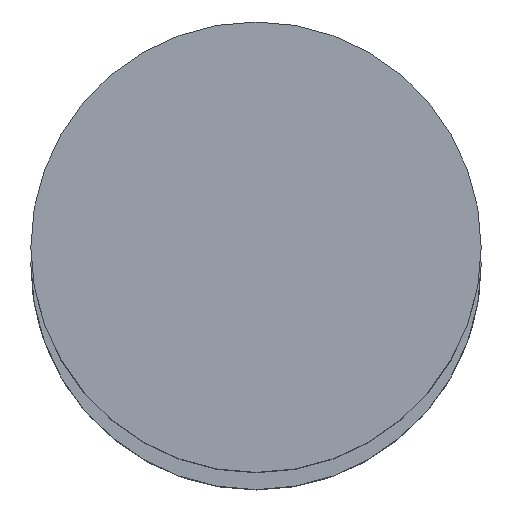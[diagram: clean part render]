
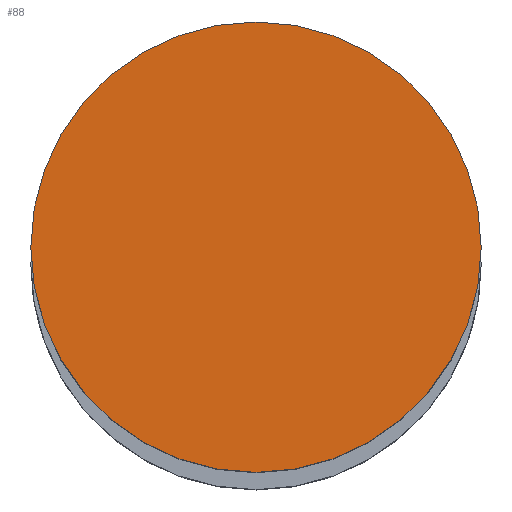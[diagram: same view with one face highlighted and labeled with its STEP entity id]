
A CAD part, top view. The second image highlights one B-rep face of the part: STEP entity #88.
In plain terms, the highlighted planar face has unit normal (0, 0, 1).
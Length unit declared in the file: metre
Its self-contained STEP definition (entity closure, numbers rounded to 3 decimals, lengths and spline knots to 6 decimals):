
#88=ADVANCED_FACE('25:217',(#175),#176,.T.);
#175=FACE_OUTER_BOUND('',#263,.T.);
#176=PLANE('',#264);
#263=EDGE_LOOP('',(#408,#409));
#264=AXIS2_PLACEMENT_3D('',#410,#411,#412);
#408=ORIENTED_EDGE('',*,*,#542,.F.);
#409=ORIENTED_EDGE('',*,*,#532,.F.);
#410=CARTESIAN_POINT('',(0.0,0.0,3.344));
#411=DIRECTION('',(0.0,0.0,1.0));
#412=DIRECTION('',(1.0,0.0,0.0));
#532=EDGE_CURVE('',#643,#645,#646,.F.);
#542=EDGE_CURVE('',#645,#643,#657,.F.);
#643=VERTEX_POINT('',#775);
#645=VERTEX_POINT('',#778);
#646=CIRCLE('',#779,0.0155);
#657=CIRCLE('',#793,0.0155);
#775=CARTESIAN_POINT('',(0.015408,0.000095,3.344));
#778=CARTESIAN_POINT('',(-0.015592,0.000095,3.344));
#779=AXIS2_PLACEMENT_3D('',#907,#908,#909);
#793=AXIS2_PLACEMENT_3D('',#919,#920,#921);
#907=CARTESIAN_POINT('',(-0.000092,0.000095,3.344));
#908=DIRECTION('',(0.0,0.0,1.0));
#909=DIRECTION('',(1.0,0.0,0.0));
#919=CARTESIAN_POINT('',(-0.000092,0.000095,3.344));
#920=DIRECTION('',(0.0,0.0,1.0));
#921=DIRECTION('',(1.0,0.0,0.0));
